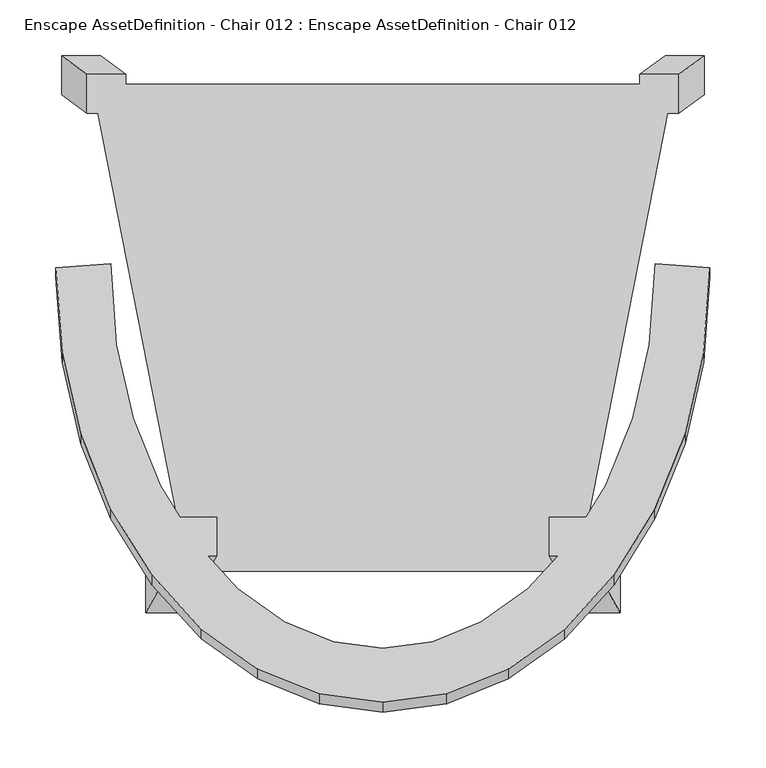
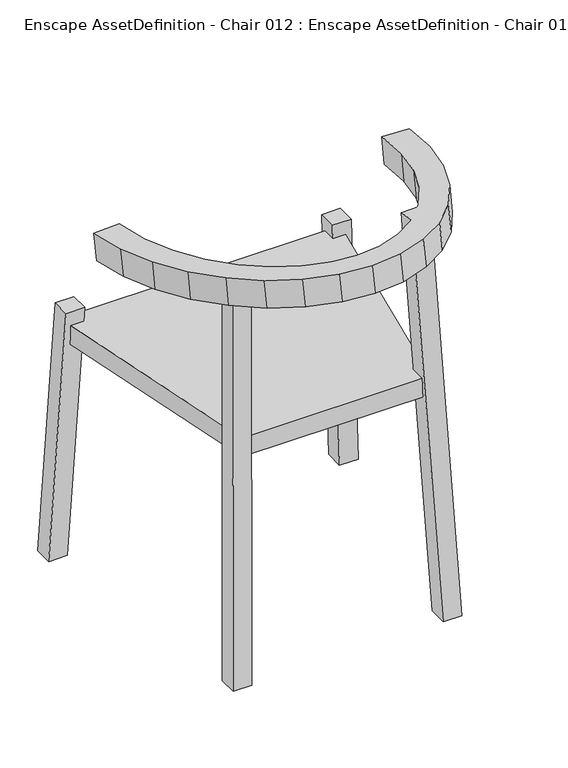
"""IFC4 building model written with IfcOpenShell, lengths in millimetres: geographic element geometry, Enscape AssetDefinition - Chair 012 : Enscape AssetDefinition - Chair 012."""

from ifc_helpers import new_model, si_unit, origin, place, context, project, spatial, triangles, source, transform, mapped, element, save


def enscape_assetdefinition_chair_012_enscape_assetdefinition_a687204f(model_context):
    return source(origin(), model_context, "Body", "Tessellation", [
        triangles([(0.0, -302.8165092, 753.0333235), (-44.5000363, -288.2343142, 800.8395624), (-44.5000363, -296.9678291, 751.9871664), (-57.1617862, -343.7414457, 760.3493013), (0.0, -351.2228931, 761.686647), (-88.2560864, -279.2638225, 748.82297), (-112.1268768, -321.584695, 756.3882059), (-162.7830145, -285.6041877, 749.9557497), (-88.2560864, -270.5302531, 797.6752207), (-129.9618075, -249.5578596, 743.5114483), (-207.1834475, -237.1824703, 741.2990833), (-167.7484818, -208.2646678, 736.1305035), (-243.6219937, -169.4468701, 779.6035767), (-243.6219937, -178.1804031, 730.7510353), (-162.7830145, -276.8706001, 798.8081457), (-112.1268768, -312.8511437, 805.2405293), (0.0, -294.0828853, 801.8858648), (44.4996003, -288.2343505, 800.8396351), (57.1613501, -335.0079672, 809.2016973), (-57.1617862, -335.0078945, 809.2016247), (0.0, -342.4893056, 810.5391157), (112.1264862, -312.8513254, 805.2406019), (88.2556958, -279.2640405, 748.82297), (44.4996003, -296.9679199, 751.9871664), (57.1613501, -343.7415184, 760.3493013), (112.1264862, -321.584913, 756.3882059), (88.2556958, -270.5304711, 797.675366), (162.7826875, -285.604442, 749.9558224), (207.183175, -228.4492643, 790.1516247), (162.7826875, -276.8709271, 798.8082184), (129.9614623, -249.5581502, 743.5115936), (207.183175, -237.1827973, 741.2992287), (129.9614623, -240.8246172, 792.363917), (167.7482092, -199.5315163, 784.9830448), (243.6217757, -169.4472879, 779.6035767), (167.7482092, -208.2650494, 736.1306488), (199.5945212, -147.8876482, 775.7496695), (270.6981026, -110.8659345, 718.7169588), (243.6217757, -178.1808755, 730.751108), (199.5945212, -156.6212176, 726.8972008), (223.7068939, -96.6058856, 716.1687132), (223.7068939, -87.8723162, 765.0210365), (270.6981026, -102.1323652, 767.5692822), (287.371667, -37.8250032, 705.6591076), (287.371667, -29.0914201, 754.5115763), (238.7281427, -22.0049159, 753.2449385), (293.0016831, 38.1350678, 692.0793406), (238.7281427, -30.7384899, 704.3923971), (243.9574383, 41.6573047, 691.4505999), (243.9574383, 50.3908877, 740.3030685), (293.0016831, 46.8686508, 740.9318819), (-207.1834475, -228.4489009, 790.1514793), (-167.7484818, -199.5311348, 784.9829721), (-129.9618075, -240.8242902, 792.363917), (-270.6982116, -102.1319473, 767.5692095), (-199.5947392, -147.8872304, 775.7495968), (-199.5947392, -156.6207816, 726.8971281), (-270.6982116, -110.8655439, 718.7168861), (-287.3717033, -29.091025, 754.5115036), (-223.7070029, -87.8718984, 765.0209639), (-238.728179, -22.0045231, 753.2447931), (-287.3717033, -37.8245967, 705.6590349), (-223.7070029, -96.605495, 716.1686405), (-243.9574383, 50.3912192, 740.3030685), (-293.0016831, 46.8689778, 740.9318092), (-238.728179, -30.7380947, 704.3923971), (-293.0016831, 38.1353948, 692.0793406), (-243.9574383, 41.6576362, 691.4505272), (-287.6734109, 236.627853, -4.38e-05), (-287.6734109, 201.7634658, -3.29e-05), (-252.8090419, 236.627853, -4.38e-05), (-265.1533103, 220.1131815, 489.4367314), (-230.2889594, 220.1131815, 489.4367314), (-252.8090419, 201.7634658, -3.29e-05), (-230.2889594, 185.2488125, 489.4367314), (-265.1533103, 185.2488125, 489.4367314), (252.8090419, 236.627853, -4.38e-05), (287.6734109, 201.7634658, -3.29e-05), (287.6734109, 236.627853, -4.38e-05), (265.1533103, 185.2488125, 489.4367314), (265.1533103, 220.1131815, 489.4367314), (230.2889594, 185.2488125, 489.4367314), (230.2889594, 220.1131815, 489.4367314), (252.8090419, 201.7634658, -3.29e-05), (174.6270045, -225.1360944, 461.8708268), (260.2853843, 211.2161229, 424.9157787), (-260.2853843, 211.2161229, 424.9157787), (174.6270045, -225.1360944, 424.9158514), (-174.6270045, -225.1360944, 461.8708268), (-174.6270045, -225.1360944, 424.9158514), (260.2853843, 211.216141, 461.8707178), (-260.2853843, 211.216141, 461.8707178), (212.6064086, -227.2863266, 3.29e-05), (212.6063905, -262.1506774, 4.38e-05), (183.9021832, -211.1917421, 768.2727276), (177.7420578, -262.1506774, 4.38e-05), (177.7420578, -227.2863266, 3.29e-05), (149.0378233, -211.1917058, 768.2727276), (183.9022014, -176.8353908, 762.3427116), (149.0378415, -176.8353363, 762.3427116), (-177.7421305, -262.1505321, 4.38e-05), (-177.7421123, -227.2861812, 3.29e-05), (-212.6064813, -227.2861812, 3.29e-05), (-183.9022559, -211.1916149, 768.2727276), (-212.6065176, -262.1505321, 4.38e-05), (-149.037896, -211.1916149, 768.2727276), (-183.9022559, -176.8352454, 762.3427116), (-149.0378869, -176.8352454, 762.3427116)], [[102, 107, 108], [107, 106, 108], [104, 106, 107], [104, 107, 105], [103, 107, 102], [105, 107, 103], [106, 101, 108], [106, 104, 101], [102, 101, 103], [108, 101, 102], [101, 104, 105], [103, 101, 105], [100, 98, 99], [99, 98, 95], [100, 96, 98], [96, 95, 98], [93, 97, 99], [97, 96, 100], [99, 97, 100], [94, 95, 96], [95, 94, 99], [93, 94, 97], [99, 94, 93], [97, 94, 96], [90, 92, 87], [92, 91, 87], [89, 92, 90], [89, 91, 92], [90, 87, 88], [88, 89, 90], [88, 87, 86], [87, 91, 86], [85, 91, 89], [85, 89, 88], [91, 85, 86], [86, 85, 88], [82, 84, 80], [82, 83, 84], [82, 80, 83], [83, 80, 81], [80, 78, 81], [81, 78, 79], [80, 84, 78], [83, 81, 77], [84, 77, 78], [84, 83, 77], [77, 81, 79], [78, 77, 79], [75, 74, 73], [75, 73, 76], [76, 74, 75], [76, 73, 72], [73, 71, 72], [73, 74, 71], [72, 71, 69], [69, 70, 72], [70, 74, 76], [74, 70, 71], [72, 70, 76], [71, 70, 69], [68, 66, 67], [64, 68, 65], [65, 68, 67], [66, 68, 61], [65, 61, 64], [61, 68, 64], [61, 63, 66], [63, 57, 58], [66, 63, 62], [67, 66, 62], [62, 63, 58], [62, 65, 67], [59, 61, 65], [59, 65, 62], [60, 63, 61], [59, 60, 61], [55, 60, 59], [59, 62, 55], [55, 62, 58], [58, 57, 14], [14, 55, 58], [57, 12, 14], [57, 63, 56], [55, 56, 60], [56, 63, 60], [56, 12, 57], [13, 56, 55], [13, 55, 14], [53, 12, 56], [13, 53, 56], [54, 12, 53], [52, 53, 13], [52, 54, 53], [47, 49, 51], [51, 49, 50], [50, 46, 51], [50, 49, 46], [47, 48, 49], [46, 49, 48], [44, 48, 47], [51, 45, 47], [51, 46, 45], [47, 45, 44], [46, 42, 45], [48, 41, 46], [44, 41, 48], [46, 41, 42], [38, 41, 44], [45, 43, 44], [45, 42, 43], [44, 43, 38], [42, 37, 43], [42, 41, 37], [38, 40, 41], [37, 41, 40], [39, 40, 38], [43, 35, 38], [43, 37, 35], [38, 35, 39], [37, 34, 35], [40, 36, 37], [39, 36, 40], [37, 36, 34], [32, 36, 39], [35, 32, 39], [29, 32, 35], [35, 34, 29], [34, 33, 29], [34, 36, 33], [32, 31, 36], [33, 36, 31], [28, 31, 32], [29, 30, 32], [29, 33, 30], [32, 30, 28], [33, 27, 30], [31, 23, 33], [28, 23, 31], [33, 23, 27], [26, 23, 28], [26, 24, 23], [25, 24, 26], [30, 22, 28], [30, 27, 22], [22, 25, 26], [28, 22, 26], [27, 18, 22], [27, 23, 18], [18, 23, 24], [19, 25, 22], [22, 18, 19], [19, 21, 25], [21, 4, 5], [25, 21, 5], [20, 16, 4], [20, 4, 21], [18, 17, 19], [21, 17, 20], [19, 17, 21], [20, 2, 16], [20, 17, 2], [16, 2, 9], [16, 9, 15], [15, 54, 52], [15, 9, 54], [52, 13, 11], [52, 11, 15], [14, 12, 11], [11, 13, 14], [12, 10, 11], [10, 12, 54], [15, 8, 16], [11, 10, 8], [15, 11, 8], [10, 6, 8], [9, 6, 54], [2, 6, 9], [54, 6, 10], [8, 6, 7], [4, 16, 7], [16, 8, 7], [6, 3, 7], [3, 6, 2], [7, 3, 4], [5, 1, 25], [3, 1, 4], [17, 1, 2], [24, 1, 18], [25, 1, 24], [4, 1, 5], [2, 1, 3], [18, 1, 17]]),
    ])


if __name__ == "__main__":
    model = new_model("IFC4")
    model_context = context("Model", 3, world=origin())
    ifc_project = project(units=[si_unit("LENGTHUNIT", "METRE", prefix="MILLI")], contexts=[model_context])
    site = spatial("IfcSite", under=ifc_project)
    building = spatial("IfcBuilding", under=site)
    placement = place(None, origin())
    enscape_assetdefinition_chair_012_enscape_assetdefinition_shape = enscape_assetdefinition_chair_012_enscape_assetdefinition_a687204f(model_context)
    element("IfcGeographicElement", 1, ObjectType="Enscape AssetDefinition - Chair 012 : Enscape AssetDefinition - Chair 012", at=placement, inside=building, context=model_context, shape_type="MappedRepresentation", body=[
        mapped(enscape_assetdefinition_chair_012_enscape_assetdefinition_shape, transform((0.0, 0.0, 0.0), x_axis=(1.0, 0.0, 0.0), y_axis=(0.0, 1.0, 0.0), z_axis=(0.0, 0.0, 1.0))),
    ])
    save(model, "model.ifc")
